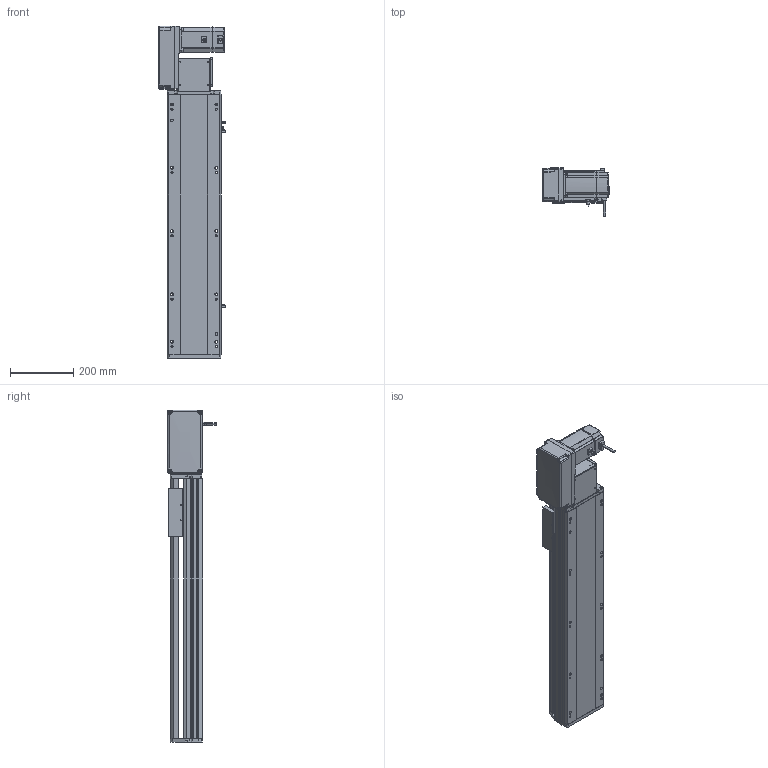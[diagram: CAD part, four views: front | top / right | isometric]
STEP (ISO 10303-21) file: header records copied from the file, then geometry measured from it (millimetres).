
FILE_DESCRIPTION (( 'STEP AP214' ), '1' );
FILE_NAME ('RTB17S-XX-550-L-M75-C4.STEP', '2025-12-12T00:09:21', ( '' ), ( '' ), 'SwSTEP 2.0', 'SolidWorks 2018', '' );
FILE_SCHEMA (( 'AUTOMOTIVE_DESIGN' ));
Length unit declared in the file: millimetre
Products named in the file (15): RTB17S-L-001-耜醱啣^RTB17S-XX-XX-L-M75-C4; RTB22S-GY-018P^RTB17S-L-々湍釱蚾饜-750W_RTB17S-XX-XX-L-M75-C4; RTB17S-XX-550-L-M75-C4; RTB22S-GY-008-M75--萇儂啣^RTB17S-L-々湍釱蚾饜-750W_RTB17S-XX-XX-L-M75-C4; RTB22S-GY-017P^RTB17S-L-々湍釱蚾饜-750W_RTB17S-XX-XX-L-M75-C4; RTB17S-L-004-賑釱^RTB17S-賑釱_RTB17S-XX-XX-L-M75-C4; RTB22S-GY-005P^RTB17S-L-々湍釱蚾饜-750W_RTB17S-XX-XX-L-M75-C4; EE672^RTB17S-XX-XX-L-M75-C4; 750W萇儂^RTB17S-XX-XX-L-M75-C4; RTB17S-L-々湍釱蚾饜-750W^RTB17S-XX-XX-L-M75-C4; RMP17S-L-014-T20-P75--々湍釱^RTB17S-L-々湍釱蚾饜-750W_RTB17S-XX-XX-L-M75-C4; RTB17-R-011菁釱^RTB17S-XX-XX-L-M75-C4; RTH13-BL-012覜茼え俋离^RTB17S-賑釱_RTB17S-XX-XX-L-M75-C4; RTB17S-L-007奻裔^RTB17S-XX-XX-L-M75-C4; RTB17S-賑釱^RTB17S-XX-XX-L-M75-C4
Assembly tree (17 placements, depth 3):
  RTB17S-XX-550-L-M75-C4
    RTB17-R-011菁釱^RTB17S-XX-XX-L-M75-C4
    EE672^RTB17S-XX-XX-L-M75-C4  x3
    RTB17S-L-001-耜醱啣^RTB17S-XX-XX-L-M75-C4
    RTB17S-賑釱^RTB17S-XX-XX-L-M75-C4
      RTB17S-L-004-賑釱^RTB17S-賑釱_RTB17S-XX-XX-L-M75-C4
      RTH13-BL-012覜茼え俋离^RTB17S-賑釱_RTB17S-XX-XX-L-M75-C4
    RTB17S-L-007奻裔^RTB17S-XX-XX-L-M75-C4
    750W萇儂^RTB17S-XX-XX-L-M75-C4
    RTB17S-L-々湍釱蚾饜-750W^RTB17S-XX-XX-L-M75-C4
      RMP17S-L-014-T20-P75--々湍釱^RTB17S-L-々湍釱蚾饜-750W_RTB17S-XX-XX-L-M75-C4
      RTB22S-GY-005P^RTB17S-L-々湍釱蚾饜-750W_RTB17S-XX-XX-L-M75-C4
      RTB22S-GY-017P^RTB17S-L-々湍釱蚾饜-750W_RTB17S-XX-XX-L-M75-C4  x2
      RTB22S-GY-008-M75--萇儂啣^RTB17S-L-々湍釱蚾饜-750W_RTB17S-XX-XX-L-M75-C4
      RTB22S-GY-018P^RTB17S-L-々湍釱蚾饜-750W_RTB17S-XX-XX-L-M75-C4
Bounding box: 210.4 x 152.7 x 1049 mm (x, y, z)
Volume: 9388117.6 mm3; surface area: 1518170.9 mm2
Topology: 17 solids, 17 shells, 2057 faces, 5674 edges, 3662 vertices
Faces by surface type: plane 966, cylinder 675, bspline 294, cone 110, sphere 8, torus 4
Entity records: 56566 total; most frequent: CARTESIAN_POINT 16538, ORIENTED_EDGE 8192, DIRECTION 7682, EDGE_CURVE 4096, AXIS2_PLACEMENT_3D 2682, VERTEX_POINT 2666, LINE 2318, VECTOR 2318
